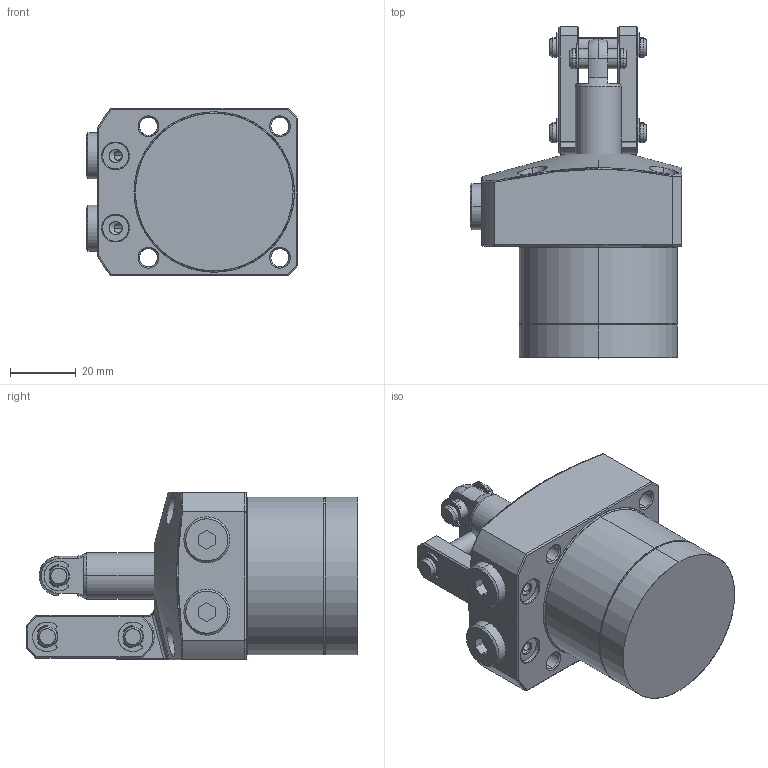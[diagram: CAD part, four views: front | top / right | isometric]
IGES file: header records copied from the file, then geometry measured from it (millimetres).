
Start section: SolidWorks IGES file using analytic representation for surfaces
Global section: file name: D:\abhilash\nijil\cylinder\LKA Series\con v lka\lka48\lk48cl\48CL PT\0402-0483.IGS; native system: SolidWorks 2010; preprocessor: SolidWorks 2010; author: nidheesh; date: 130730.102839; units: millimetre
Bounding box: 64.5 x 101 x 51 mm (x, y, z)
Surface area: 26945.6 mm2 (no closed solid volume)
Topology: 0 solids, 0 shells, 390 faces, 5092 edges, 5087 vertices
Faces by surface type: bspline 214, revolution 176
